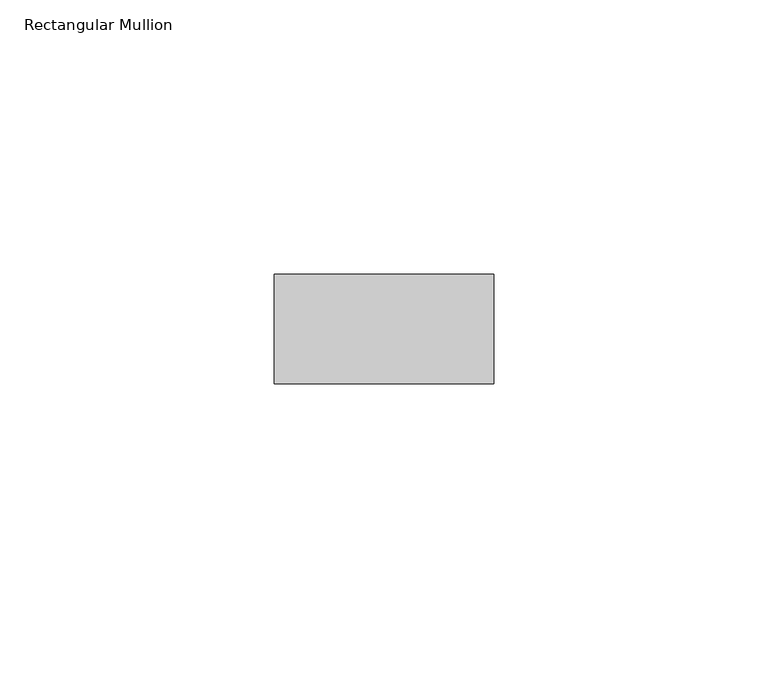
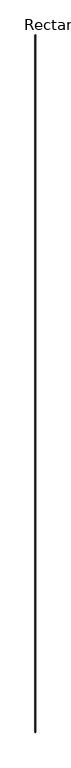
"""IFC4 building model written with IfcOpenShell, lengths in millimetres: member geometry, Rectangular Mullion : RIPA 4x2 cm."""

import ifcopenshell
import ifcopenshell.guid

model = None  # the IFC model being written
_history = None  # IfcOwnerHistory: only IFC2X3 demands one
_inside = {}  # id of a spatial element -> (the spatial element, [elements in it])
_under = {}  # id of a project, library or spatial element -> (it, [spatial elements below it])
_declared = {}  # id of a project -> (the project, [libraries it declares])
_typed = {}  # id of a type object -> (the type object, [elements of that type])
_made_of = {}  # id of a material, layer set ... -> (it, [elements and type objects made of it])


def new_model(schema):
    """Start an empty IFC model of exactly this schema.

    Asked for "IFC4X3", IfcOpenShell would pick the latest addendum, in which some entities
    have other attributes; the version numbers below select the first issue.
    IFC2X3 requires an IfcOwnerHistory on every rooted entity: one is made here for all.
    """
    global model, _history
    if schema == "IFC4X3":
        model = ifcopenshell.file(schema_version=(4, 3, 0, 0))
    else:
        model = ifcopenshell.file(schema=schema)
    _inside.clear()
    _under.clear()
    _declared.clear()
    _typed.clear()
    _made_of.clear()
    _history = None
    if model.schema == "IFC2X3":
        org = make("IfcOrganization", Name="unknown")
        user = make(
            "IfcPersonAndOrganization",
            ThePerson=make("IfcPerson", FamilyName="unknown"),
            TheOrganization=org,
        )
        app = make(
            "IfcApplication",
            ApplicationDeveloper=org,
            Version="unknown",
            ApplicationFullName="unknown",
            ApplicationIdentifier="unknown",
        )
        _history = make(
            "IfcOwnerHistory",
            OwningUser=user,
            OwningApplication=app,
            ChangeAction="ADDED",
            CreationDate=0,
        )
    return model


def make(cls, **values):
    """One entity of the class cls with the attributes given. An attribute that is None is left unset."""
    return model.create_entity(
        cls, **{name: value for name, value in values.items() if value is not None}
    )


def rooted(cls, **values):
    """An entity with a GlobalId (a new one), such as an element, a storey or a relation."""
    return make(cls, GlobalId=ifcopenshell.guid.new(), OwnerHistory=_history, **values)


def si_unit(unit_type, name, prefix=None):
    """IfcSIUnit, for example si_unit("LENGTHUNIT", "METRE", prefix="MILLI")."""
    return make("IfcSIUnit", UnitType=unit_type, Prefix=prefix, Name=name)


def assignment(units):
    """IfcUnitAssignment: the units of a project."""
    return None if units is None else make("IfcUnitAssignment", Units=units)


def point(xyz):
    """IfcCartesianPoint."""
    return None if xyz is None else make("IfcCartesianPoint", Coordinates=xyz)


def direction(xyz):
    """IfcDirection."""
    return None if xyz is None else make("IfcDirection", DirectionRatios=xyz)


def frame(location, z_axis=None, x_axis=None):
    """IfcAxis2Placement3D, a coordinate frame: its origin and axes. An axis left out is left unset."""
    return make(
        "IfcAxis2Placement3D",
        Location=point(location),
        Axis=direction(z_axis),
        RefDirection=direction(x_axis),
    )


def origin():
    """The frame at (0, 0, 0) with its axes left unset."""
    return frame((0.0, 0.0, 0.0))


def place(relative_to, where):
    """IfcLocalPlacement: puts the frame where relative to a parent placement (None: the world)."""
    return make(
        "IfcLocalPlacement", PlacementRelTo=relative_to, RelativePlacement=where
    )


def context(
    kind, dimensions, precision=None, world=None, true_north=None, identifier=None
):
    """IfcGeometricRepresentationContext, for example the 3D "Model" context."""
    return make(
        "IfcGeometricRepresentationContext",
        ContextIdentifier=identifier,
        ContextType=kind,
        CoordinateSpaceDimension=dimensions,
        Precision=precision,
        WorldCoordinateSystem=world,
        TrueNorth=true_north,
    )


def project(units=None, contexts=None):
    """IfcProject with its units and contexts."""
    return rooted(
        "IfcProject",
        Name="project",
        RepresentationContexts=contexts,
        UnitsInContext=assignment(units),
    )


def spatial(cls, under=None, at=None, **own):
    """A site, building, storey or space (cls), placed at a placement, below another one or the project."""
    s = rooted(cls, ObjectPlacement=at, **own)
    if under is not None:
        _under.setdefault(under.id(), (under, []))[1].append(s)
    return s


def polyline(points):
    """IfcPolyline through the points."""
    return make("IfcPolyline", Points=[point(p) for p in points])


def outline(outer, holes=None, kind="AREA"):
    """IfcArbitraryClosedProfileDef: a profile drawn as a closed curve; with holes, ...WithVoids."""
    if holes is None:
        return make("IfcArbitraryClosedProfileDef", ProfileType=kind, OuterCurve=outer)
    return make(
        "IfcArbitraryProfileDefWithVoids",
        ProfileType=kind,
        OuterCurve=outer,
        InnerCurves=holes,
    )


def extrude(swept, where, along, depth):
    """IfcExtrudedAreaSolid: the profile swept, set in the frame where, extruded along a direction by depth."""
    return make(
        "IfcExtrudedAreaSolid",
        SweptArea=swept,
        Position=where,
        ExtrudedDirection=direction(along),
        Depth=depth,
    )


def shape(context_of_items, identifier, shape_type, items):
    """IfcShapeRepresentation: the items that make up one representation, for example the "Body"."""
    return make(
        "IfcShapeRepresentation",
        ContextOfItems=context_of_items,
        RepresentationIdentifier=identifier,
        RepresentationType=shape_type,
        Items=items,
    )


def source(mapping_origin, context_of_items, identifier, shape_type, items):
    """IfcRepresentationMap: a shape defined once, which mapped items show again and again."""
    return make(
        "IfcRepresentationMap",
        MappingOrigin=mapping_origin,
        MappedRepresentation=shape(context_of_items, identifier, shape_type, items),
    )


def transform(
    local_origin,
    x_axis=None,
    y_axis=None,
    z_axis=None,
    scale=None,
    scale2=None,
    scale3=None,
    uniform=True,
):
    """IfcCartesianTransformationOperator3D, or its non-uniform kind. x_axis, y_axis, z_axis: its Axis1, 2, 3."""
    if uniform:
        return make(
            "IfcCartesianTransformationOperator3D",
            Axis1=direction(x_axis),
            Axis2=direction(y_axis),
            LocalOrigin=point(local_origin),
            Scale=scale,
            Axis3=direction(z_axis),
        )
    return make(
        "IfcCartesianTransformationOperator3DnonUniform",
        Axis1=direction(x_axis),
        Axis2=direction(y_axis),
        LocalOrigin=point(local_origin),
        Scale=scale,
        Axis3=direction(z_axis),
        Scale2=scale2,
        Scale3=scale3,
    )


def mapped(mapping_source, mapping_target):
    """IfcMappedItem: shows the shape of a source again, moved by a transform."""
    return make(
        "IfcMappedItem", MappingSource=mapping_source, MappingTarget=mapping_target
    )


def made_of(thing, what):
    """Note that an element or type object is made of a material, layer set ...; save() writes the relation."""
    if what is not None:
        _made_of.setdefault(what.id(), (what, []))[1].append(thing)
    return thing


def element(
    cls,
    number,
    at=None,
    inside=None,
    cuts=None,
    type_object=None,
    material=None,
    context=None,
    identifier="Body",
    shape_type=None,
    held_by="IfcProductDefinitionShape",
    body=None,
    shapes=None,
    **own,
):
    """One element of the class cls, such as IfcWall. Its Tag is "e" and its number.

    at: its placement. inside: the storey or other place that contains it. cuts: it is an
    opening in that element (IfcRelVoidsElement). A single representation is given by context,
    identifier, shape_type and body (its items); several are given by shapes. held_by: the class
    of the entity that holds the representations. save() writes the other relations.
    """
    e = rooted(cls, Tag="e%d" % number, ObjectPlacement=at, **own)
    if body is not None:
        shapes = [shape(context, identifier, shape_type, body)]
    if shapes is not None:
        e.Representation = make(held_by, Representations=shapes)
    if inside is not None:
        _inside.setdefault(inside.id(), (inside, []))[1].append(e)
    if cuts is not None:
        rooted(
            "IfcRelVoidsElement", RelatingBuildingElement=cuts, RelatedOpeningElement=e
        )
    if type_object is not None:
        _typed.setdefault(type_object.id(), (type_object, []))[1].append(e)
    return made_of(e, material)


def aggregate(whole, parts):
    """IfcRelAggregates: a whole, such as a stair, and the parts it consists of."""
    return rooted("IfcRelAggregates", RelatingObject=whole, RelatedObjects=parts)


def save(model, path):
    """Write the relations noted so far, then the file.

    IfcRelAggregates (storeys below a building ...), IfcRelContainedInSpatialStructure (elements
    in a storey), IfcRelDefinesByType, IfcRelAssociatesMaterial and IfcRelDeclares: one each for
    every whole, place, type object, material and project.
    """
    for whole, parts in _under.values():
        aggregate(whole, parts)
    for where, things in _inside.values():
        rooted(
            "IfcRelContainedInSpatialStructure",
            RelatedElements=things,
            RelatingStructure=where,
        )
    for kind, things in _typed.values():
        rooted("IfcRelDefinesByType", RelatedObjects=things, RelatingType=kind)
    for what, things in _made_of.values():
        rooted("IfcRelAssociatesMaterial", RelatedObjects=things, RelatingMaterial=what)
    for by, libraries in _declared.values():
        rooted("IfcRelDeclares", RelatingContext=by, RelatedDefinitions=libraries)
    model.write(path)


def rectangular_mullion_8fe6ab02(model_context):
    return source(origin(), model_context, "Body", "SweptSolid", [
        extrude(outline(polyline([(20.0, 0.0), (20.0, -20.0), (-20.0, -20.0), (-20.0, 0.0), (20.0, 0.0)])), frame((0.0, 0.0, -38915.0717614), z_axis=(0.0, 0.0, 1.0), x_axis=(1.0, 0.0, 0.0)), (0.0, 0.0, 1.0), 38915.0717614),
    ])


if __name__ == "__main__":
    model = new_model("IFC4")
    model_context = context("Model", 3, world=origin())
    ifc_project = project(units=[si_unit("LENGTHUNIT", "METRE", prefix="MILLI")], contexts=[model_context])
    site = spatial("IfcSite", under=ifc_project)
    building = spatial("IfcBuilding", under=site)
    placement = place(None, origin())
    rectangular_mullion_shape = rectangular_mullion_8fe6ab02(model_context)
    element("IfcMember", 1, ObjectType="Rectangular Mullion : RIPA 4x2 cm", at=placement, inside=building, context=model_context, shape_type="MappedRepresentation", body=[
        mapped(rectangular_mullion_shape, transform((0.0, 0.0, 0.0), x_axis=(1.0, 0.0, 0.0), y_axis=(0.0, 1.0, 0.0), z_axis=(0.0, 0.0, 1.0))),
    ])
    save(model, "model.ifc")
